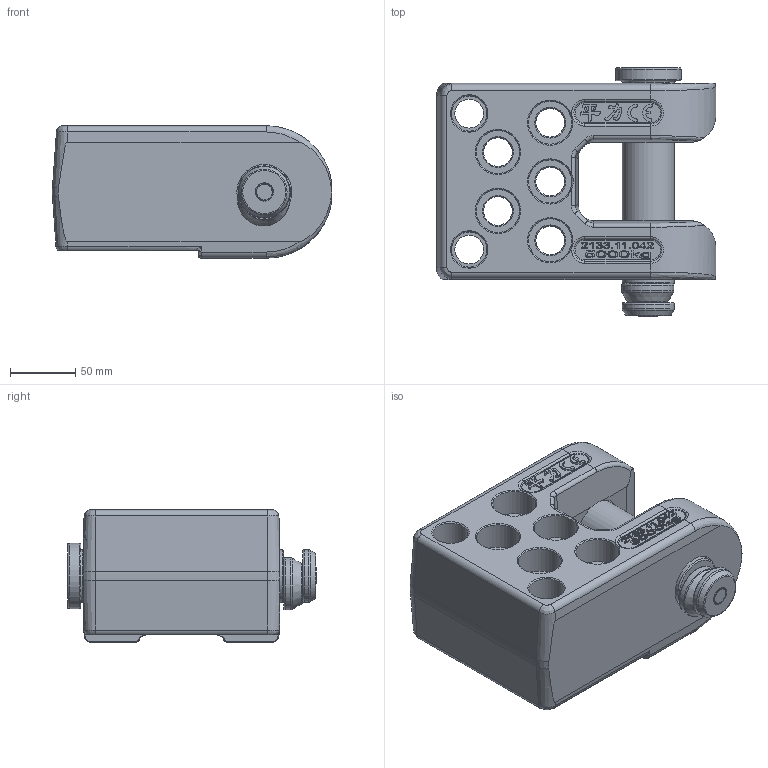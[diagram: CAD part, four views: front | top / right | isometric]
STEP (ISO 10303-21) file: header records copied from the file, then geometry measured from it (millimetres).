
FILE_DESCRIPTION(/* description */ (''),/* implementation_level */ '2;1');
FILE_NAME(/* name */ '2133.11.042.stp',/* time_stamp */ '2025-04-02T13:51:53+08:00',/* author */ (''),/* organization */ (''),/* preprocessor_version */ 'ST-DEVELOPER v16',/* originating_system */ 'SIEMENS PLM Software NX 10.0',/* authorisation */ '');
FILE_SCHEMA (('AP203_CONFIGURATION_CONTROLLED_3D_DESIGN_OF_MECHANICAL_PARTS_AND_ASSEMBLIES_MIM_LF { 1 0 10303 403 2 1 2}'));
Length unit declared in the file: millimetre
Products named in the file (1): Admi177C9AD32igj
Bounding box: 213.64 x 190 x 101.2 mm (x, y, z)
Volume: 2148536.8 mm3; surface area: 216089.4 mm2
Topology: 4 solids, 4 shells, 788 faces, 2048 edges, 1332 vertices
Faces by surface type: plane 350, extrusion 227, cylinder 107, bspline 54, cone 29, torus 19, sphere 2
Full cylindrical faces by diameter (mm): 15 x1, 22 x7, 26 x1, 27 x2, 33 x5, 40 x3, 42 x2, 50 x1
Entity records: 30586 total; most frequent: CARTESIAN_POINT 13032, ORIENTED_EDGE 3932, DIRECTION 2729, EDGE_CURVE 1966, VERTEX_POINT 1312, VECTOR 1111, B_SPLINE_CURVE_WITH_KNOTS 1008, EDGE_LOOP 936
